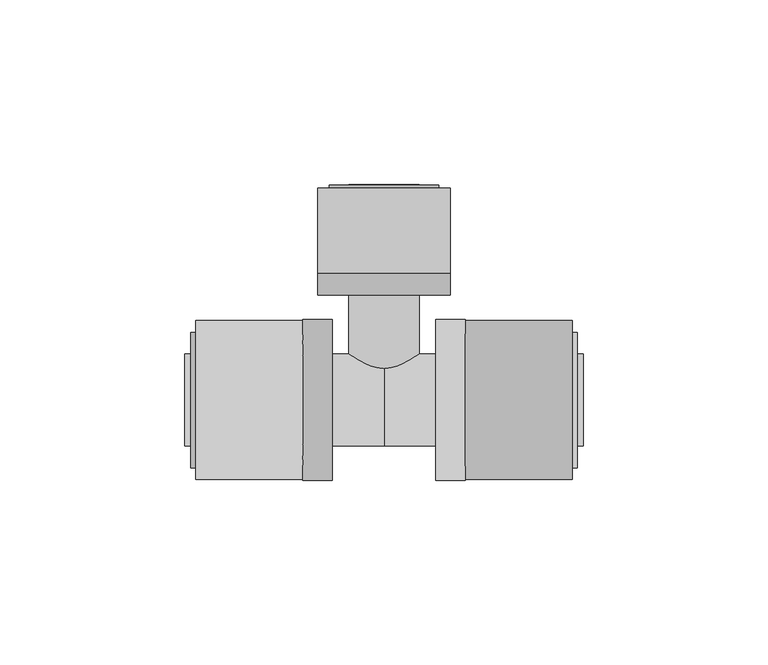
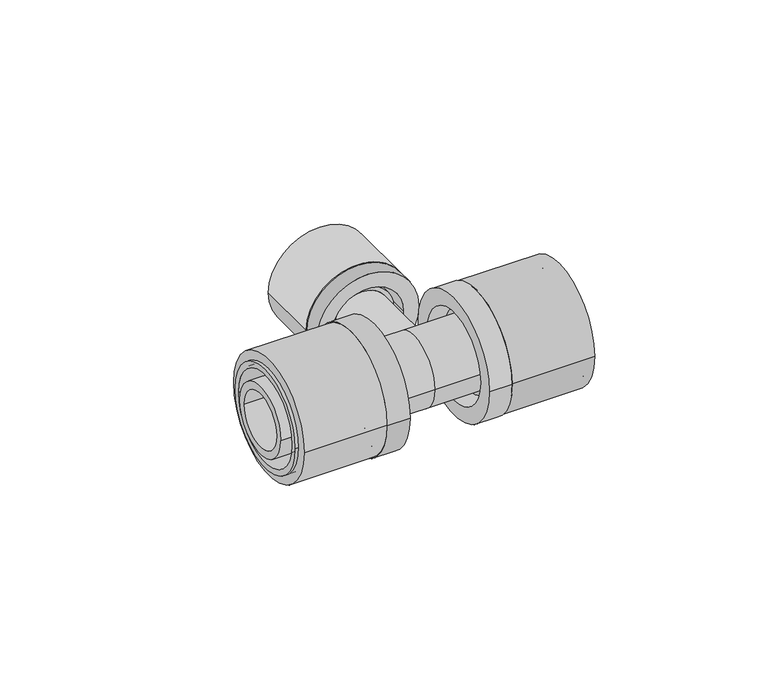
"""IFC4 building model written with IfcOpenShell, lengths in millimetres: pipe fitting geometry, FASTLOC_T-piece_LX : FSL T-Piece LX CZ."""

from ifc_helpers import new_model, si_unit, point, frame, origin, origin_2d, place, context, project, spatial, polyline, circle_curve, trimmed, segment, composite_curve, outline, extrude, source, transform, mapped, element, save
from ifc_brep_helpers import plane_surface, cylinder_surface, revolved_surface, advanced_brep


def pipe_fitting_b40a3e3c(model_context):
    return source(origin(), model_context, "Body", "SolidModel", [
        extrude(outline(composite_curve([segment(trimmed(circle_curve(origin_2d(), 21.5), [point((-21.5, 0.0))], [point((21.5, 0.0))], False, "CARTESIAN"), True, "CONTINUOUS"), segment(trimmed(circle_curve(origin_2d(), 21.5), [point((21.5, 0.0))], [point((-21.5, 0.0))], False, "CARTESIAN"), True, "CONTINUOUS")], self_intersect=False), holes=[composite_curve([segment(trimmed(circle_curve(origin_2d(), 16.85), [point((-16.85, 0.0))], [point((16.85, 0.0))], True, "CARTESIAN"), True, "CONTINUOUS"), segment(trimmed(circle_curve(origin_2d(), 16.85), [point((16.85, 0.0))], [point((-16.85, 0.0))], True, "CARTESIAN"), True, "CONTINUOUS")], self_intersect=False)]), frame((22.0, 0.0, 0.0), z_axis=(1.0, 0.0, 0.0), x_axis=(0.0, 1.0, 0.0)), (0.0, 0.0, 1.0), 29.0),
        advanced_brep(
        [(22.0, 21.8, 0.0), (22.0, -21.8, 0.0), (14.0, -21.8, 0.0), (14.0, 21.8, 0.0), (52.3, 18.35, 0.0), (52.3, -18.35, 0.0), (22.0, -18.35, 0.0), (22.0, 18.35, 0.0), (14.0, 16.2, 0.0), (14.0, -16.2, 0.0), (52.3, -16.2, 0.0), (52.3, 16.2, 0.0)],
        [
            (0, 1, circle_curve(frame((22.0, 0.0, 0.0), z_axis=(-1.0, 0.0, 0.0), x_axis=(0.0, -1.0, 0.0)), 21.8)),
            (1, 2),
            (2, 3, circle_curve(frame((14.0, 0.0, 0.0), z_axis=(1.0, 0.0, 0.0), x_axis=(0.0, -1.0, 0.0)), 21.8)),
            (3, 0),
            (4, 5, circle_curve(frame((52.3, 0.0, 0.0), z_axis=(-1.0, 0.0, 0.0), x_axis=(0.0, -1.0, 0.0)), 18.35)),
            (5, 6),
            (6, 7, circle_curve(frame((22.0, 0.0, 0.0), z_axis=(1.0, 0.0, 0.0), x_axis=(0.0, -1.0, 0.0)), 18.35)),
            (7, 4),
            (8, 9, circle_curve(frame((14.0, 0.0, 0.0), z_axis=(-1.0, 0.0, 0.0), x_axis=(0.0, -1.0, 0.0)), 16.2)),
            (9, 10),
            (10, 11, circle_curve(frame((52.3, 0.0, 0.0), z_axis=(1.0, 0.0, 0.0), x_axis=(0.0, -1.0, 0.0)), 16.2)),
            (11, 8),
            (1, 0, circle_curve(frame((22.0, 0.0, 0.0), z_axis=(-1.0, 0.0, 0.0), x_axis=(0.0, 1.0, 0.0)), 21.8)),
            (3, 2, circle_curve(frame((14.0, 0.0, 0.0), z_axis=(1.0, 0.0, 0.0), x_axis=(0.0, 1.0, 0.0)), 21.8)),
            (6, 7, circle_curve(frame((22.0, 0.0, 0.0), z_axis=(-1.0, 0.0, 0.0), x_axis=(0.0, 1.0, 0.0)), 18.35)),
            (5, 4, circle_curve(frame((52.3, 0.0, 0.0), z_axis=(-1.0, 0.0, 0.0), x_axis=(0.0, 1.0, 0.0)), 18.35)),
            (10, 11, circle_curve(frame((52.3, 0.0, 0.0), z_axis=(-1.0, 0.0, 0.0), x_axis=(0.0, 1.0, 0.0)), 16.2)),
            (9, 8, circle_curve(frame((14.0, 0.0, 0.0), z_axis=(-1.0, 0.0, 0.0), x_axis=(0.0, 1.0, 0.0)), 16.2)),
        ],
        [
            cylinder_surface(frame((14.0, 0.0, 0.0), z_axis=(1.0, 0.0, 0.0), x_axis=(0.0, -1.0, 0.0)), 21.8),
            cylinder_surface(frame((14.0, 0.0, 0.0), z_axis=(1.0, 0.0, 0.0), x_axis=(0.0, -1.0, 0.0)), 18.35),
            revolved_surface(polyline([(52.3, -16.2, 0.0), (14.0, -16.2, 0.0)]), (14.0, 0.0, 0.0), (1.0, 0.0, 0.0)),
            cylinder_surface(frame((14.0, 0.0, 0.0), z_axis=(1.0, 0.0, 0.0), x_axis=(0.0, 1.0, 0.0)), 21.8),
            plane_surface(frame((22.0, 0.0, 0.0), z_axis=(1.0, 0.0, 0.0), x_axis=(0.0, 1.0, 0.0))),
            cylinder_surface(frame((14.0, 0.0, 0.0), z_axis=(1.0, 0.0, 0.0), x_axis=(0.0, 1.0, 0.0)), 18.35),
            plane_surface(frame((52.3, 0.0, 0.0), z_axis=(1.0, 0.0, 0.0), x_axis=(0.0, 1.0, 0.0))),
            revolved_surface(polyline([(52.3, 16.2, 0.0), (14.0, 16.2, 0.0)]), (14.0, 0.0, 0.0), (1.0, 0.0, 0.0)),
            plane_surface(frame((14.0, 0.0, 0.0), z_axis=(-1.0, 0.0, 0.0), x_axis=(0.0, 1.0, 0.0))),
        ],
        [
            (0, [[1, 2, 3, 4]]),
            (1, [[5, 6, 7, 8]]),
            (2, [[9, 10, 11, 12]]),
            (3, [[13, -4, 14, -2]]),
            (4, [[-13, -1], [15, -7]]),
            (5, [[16, -8, -15, -6]]),
            (6, [[-16, -5], [17, -11]]),
            (7, [[18, -12, -17, -10]]),
            (8, [[-14, -3], [-18, -9]]),
        ],
    ),
        extrude(outline(composite_curve([segment(trimmed(circle_curve(origin_2d(), 21.5), [point((21.5, 0.0))], [point((-21.5, 0.0))], False, "CARTESIAN"), True, "CONTINUOUS"), segment(trimmed(circle_curve(origin_2d(), 21.5), [point((-21.5, 0.0))], [point((21.5, 0.0))], False, "CARTESIAN"), True, "CONTINUOUS")], self_intersect=False), holes=[composite_curve([segment(trimmed(circle_curve(origin_2d(), 16.85), [point((16.85, 0.0))], [point((-16.85, 0.0))], True, "CARTESIAN"), True, "CONTINUOUS"), segment(trimmed(circle_curve(origin_2d(), 16.85), [point((-16.85, 0.0))], [point((16.85, 0.0))], True, "CARTESIAN"), True, "CONTINUOUS")], self_intersect=False)]), frame((-51.0, 0.0, 0.0), z_axis=(1.0, 0.0, 0.0), x_axis=(0.0, 1.0, 0.0)), (0.0, 0.0, 1.0), 29.0),
        advanced_brep(
        [(-22.0, -21.8, 0.0), (-22.0, 21.8, 0.0), (-14.0, 21.8, 0.0), (-14.0, -21.8, 0.0), (-52.3, -18.35, 0.0), (-52.3, 18.35, 0.0), (-22.0, 18.35, 0.0), (-22.0, -18.35, 0.0), (-14.0, -16.2, 0.0), (-14.0, 16.2, 0.0), (-52.3, 16.2, 0.0), (-52.3, -16.2, 0.0)],
        [
            (0, 1, circle_curve(frame((-22.0, 0.0, 0.0), z_axis=(1.0, 0.0, 0.0), x_axis=(0.0, 1.0, 0.0)), 21.8)),
            (1, 2),
            (2, 3, circle_curve(frame((-14.0, 0.0, 0.0), z_axis=(-1.0, 0.0, 0.0), x_axis=(0.0, 1.0, 0.0)), 21.8)),
            (3, 0),
            (4, 5, circle_curve(frame((-52.3, 0.0, 0.0), z_axis=(1.0, 0.0, 0.0), x_axis=(0.0, 1.0, 0.0)), 18.35)),
            (5, 6),
            (6, 7, circle_curve(frame((-22.0, 0.0, 0.0), z_axis=(-1.0, 0.0, 0.0), x_axis=(0.0, 1.0, 0.0)), 18.35)),
            (7, 4),
            (8, 9, circle_curve(frame((-14.0, 0.0, 0.0), z_axis=(1.0, 0.0, 0.0), x_axis=(0.0, 1.0, 0.0)), 16.2)),
            (9, 10),
            (10, 11, circle_curve(frame((-52.3, 0.0, 0.0), z_axis=(-1.0, 0.0, 0.0), x_axis=(0.0, 1.0, 0.0)), 16.2)),
            (11, 8),
            (1, 0, circle_curve(frame((-22.0, 0.0, 0.0), z_axis=(1.0, 0.0, 0.0), x_axis=(0.0, -1.0, 0.0)), 21.8)),
            (3, 2, circle_curve(frame((-14.0, 0.0, 0.0), z_axis=(-1.0, 0.0, 0.0), x_axis=(0.0, -1.0, 0.0)), 21.8)),
            (6, 7, circle_curve(frame((-22.0, 0.0, 0.0), z_axis=(1.0, 0.0, 0.0), x_axis=(0.0, -1.0, 0.0)), 18.35)),
            (5, 4, circle_curve(frame((-52.3, 0.0, 0.0), z_axis=(1.0, 0.0, 0.0), x_axis=(0.0, -1.0, 0.0)), 18.35)),
            (10, 11, circle_curve(frame((-52.3, 0.0, 0.0), z_axis=(1.0, 0.0, 0.0), x_axis=(0.0, -1.0, 0.0)), 16.2)),
            (9, 8, circle_curve(frame((-14.0, 0.0, 0.0), z_axis=(1.0, 0.0, 0.0), x_axis=(0.0, -1.0, 0.0)), 16.2)),
        ],
        [
            cylinder_surface(frame((-14.0, 0.0, 0.0), z_axis=(-1.0, 0.0, 0.0), x_axis=(0.0, 1.0, 0.0)), 21.8),
            cylinder_surface(frame((-14.0, 0.0, 0.0), z_axis=(-1.0, 0.0, 0.0), x_axis=(0.0, 1.0, 0.0)), 18.35),
            revolved_surface(polyline([(-52.3, 16.2, 0.0), (-14.0, 16.2, 0.0)]), (-14.0, 0.0, 0.0), (-1.0, 0.0, 0.0)),
            cylinder_surface(frame((-14.0, 0.0, 0.0), z_axis=(-1.0, 0.0, 0.0), x_axis=(0.0, -1.0, 0.0)), 21.8),
            plane_surface(frame((-22.0, 0.0, 0.0), z_axis=(-1.0, 0.0, 0.0), x_axis=(0.0, -1.0, 0.0))),
            cylinder_surface(frame((-14.0, 0.0, 0.0), z_axis=(-1.0, 0.0, 0.0), x_axis=(0.0, -1.0, 0.0)), 18.35),
            plane_surface(frame((-52.3, 0.0, 0.0), z_axis=(-1.0, 0.0, 0.0), x_axis=(0.0, -1.0, 0.0))),
            revolved_surface(polyline([(-52.3, -16.2, 0.0), (-14.0, -16.2, 0.0)]), (-14.0, 0.0, 0.0), (-1.0, 0.0, 0.0)),
            plane_surface(frame((-14.0, 0.0, 0.0), z_axis=(1.0, 0.0, 0.0), x_axis=(0.0, -1.0, 0.0))),
        ],
        [
            (0, [[1, 2, 3, 4]]),
            (1, [[5, 6, 7, 8]]),
            (2, [[9, 10, 11, 12]]),
            (3, [[13, -4, 14, -2]]),
            (4, [[-13, -1], [15, -7]]),
            (5, [[16, -8, -15, -6]]),
            (6, [[-16, -5], [17, -11]]),
            (7, [[18, -12, -17, -10]]),
            (8, [[-14, -3], [-18, -9]]),
        ],
    ),
        extrude(outline(composite_curve([segment(trimmed(circle_curve(origin_2d(), 18.0), [point((0.0, 18.0))], [point((0.0, -18.0))], False, "CARTESIAN"), True, "CONTINUOUS"), segment(trimmed(circle_curve(origin_2d(), 18.0), [point((0.0, -18.0))], [point((0.0, 18.0))], False, "CARTESIAN"), True, "CONTINUOUS")], self_intersect=False), holes=[composite_curve([segment(trimmed(circle_curve(origin_2d(), 13.5), [point((0.0, 13.5))], [point((0.0, -13.5))], True, "CARTESIAN"), True, "CONTINUOUS"), segment(trimmed(circle_curve(origin_2d(), 13.5), [point((0.0, -13.5))], [point((0.0, 13.5))], True, "CARTESIAN"), True, "CONTINUOUS")], self_intersect=False)]), frame((0.0, 34.4, 0.0), z_axis=(0.0, 1.0, 0.0), x_axis=(0.0, 0.0, 1.0)), (0.0, 0.0, 1.0), 23.0),
        advanced_brep(
        [(-18.0, 34.4, 0.0), (18.0, 34.4, 0.0), (18.0, 28.4, 0.0), (-18.0, 28.4, 0.0), (-14.85, 58.2, 0.0), (14.85, 58.2, 0.0), (14.85, 34.4, 0.0), (-14.85, 34.4, 0.0), (-12.65, 28.4, 0.0), (12.65, 28.4, 0.0), (12.65, 58.2, 0.0), (-12.65, 58.2, 0.0)],
        [
            (0, 1, circle_curve(frame((0.0, 34.4, 0.0), z_axis=(0.0, -1.0, 0.0), x_axis=(1.0, 0.0, 0.0)), 18.0)),
            (1, 2),
            (2, 3, circle_curve(frame((0.0, 28.4, 0.0), z_axis=(0.0, 1.0, 0.0), x_axis=(1.0, 0.0, 0.0)), 18.0)),
            (3, 0),
            (4, 5, circle_curve(frame((0.0, 58.2, 0.0), z_axis=(0.0, -1.0, 0.0), x_axis=(1.0, 0.0, 0.0)), 14.85)),
            (5, 6),
            (6, 7, circle_curve(frame((0.0, 34.4, 0.0), z_axis=(0.0, 1.0, 0.0), x_axis=(1.0, 0.0, 0.0)), 14.85)),
            (7, 4),
            (8, 9, circle_curve(frame((0.0, 28.4, 0.0), z_axis=(0.0, -1.0, 0.0), x_axis=(1.0, 0.0, 0.0)), 12.65)),
            (9, 10),
            (10, 11, circle_curve(frame((0.0, 58.2, 0.0), z_axis=(0.0, 1.0, 0.0), x_axis=(1.0, 0.0, 0.0)), 12.65)),
            (11, 8),
            (1, 0, circle_curve(frame((0.0, 34.4, 0.0), z_axis=(0.0, -1.0, 0.0), x_axis=(-1.0, 0.0, 0.0)), 18.0)),
            (3, 2, circle_curve(frame((0.0, 28.4, 0.0), z_axis=(0.0, 1.0, 0.0), x_axis=(-1.0, 0.0, 0.0)), 18.0)),
            (6, 7, circle_curve(frame((0.0, 34.4, 0.0), z_axis=(0.0, -1.0, 0.0), x_axis=(-1.0, 0.0, 0.0)), 14.85)),
            (5, 4, circle_curve(frame((0.0, 58.2, 0.0), z_axis=(0.0, -1.0, 0.0), x_axis=(-1.0, 0.0, 0.0)), 14.85)),
            (10, 11, circle_curve(frame((0.0, 58.2, 0.0), z_axis=(0.0, -1.0, 0.0), x_axis=(-1.0, 0.0, 0.0)), 12.65)),
            (9, 8, circle_curve(frame((0.0, 28.4, 0.0), z_axis=(0.0, -1.0, 0.0), x_axis=(-1.0, 0.0, 0.0)), 12.65)),
        ],
        [
            cylinder_surface(frame((0.0, 28.4, 0.0), z_axis=(0.0, 1.0, 0.0), x_axis=(1.0, 0.0, 0.0)), 18.0),
            cylinder_surface(frame((0.0, 28.4, 0.0), z_axis=(0.0, 1.0, 0.0), x_axis=(1.0, 0.0, 0.0)), 14.85),
            revolved_surface(polyline([(12.65, 58.2, 0.0), (12.65, 28.4, 0.0)]), (0.0, 28.4, 0.0), (0.0, 1.0, 0.0)),
            cylinder_surface(frame((0.0, 28.4, 0.0), z_axis=(0.0, 1.0, 0.0), x_axis=(-1.0, 0.0, 0.0)), 18.0),
            plane_surface(frame((0.0, 34.4, 0.0), z_axis=(0.0, 1.0, 0.0), x_axis=(-1.0, 0.0, 0.0))),
            cylinder_surface(frame((0.0, 28.4, 0.0), z_axis=(0.0, 1.0, 0.0), x_axis=(-1.0, 0.0, 0.0)), 14.85),
            plane_surface(frame((0.0, 58.2, 0.0), z_axis=(0.0, 1.0, 0.0), x_axis=(-1.0, 0.0, 0.0))),
            revolved_surface(polyline([(-12.65, 58.2, 0.0), (-12.65, 28.4, 0.0)]), (0.0, 28.4, 0.0), (0.0, 1.0, 0.0)),
            plane_surface(frame((0.0, 28.4, 0.0), z_axis=(0.0, -1.0, 0.0), x_axis=(-1.0, 0.0, 0.0))),
        ],
        [
            (0, [[1, 2, 3, 4]]),
            (1, [[5, 6, 7, 8]]),
            (2, [[9, 10, 11, 12]]),
            (3, [[13, -4, 14, -2]]),
            (4, [[-13, -1], [15, -7]]),
            (5, [[16, -8, -15, -6]]),
            (6, [[-16, -5], [17, -11]]),
            (7, [[18, -12, -17, -10]]),
            (8, [[-14, -3], [-18, -9]]),
        ],
    ),
        advanced_brep(
        [(0.0, 12.5, 0.0), (0.0, -12.5, 0.0), (-19.0, -12.5, 0.0), (-19.0, 12.5, 0.0), (19.0, 12.5, 0.0), (19.0, -12.5, 0.0), (22.0, 14.1, 0.0), (22.0, -14.1, 0.0), (19.0, -14.1, 0.0), (19.0, 14.1, 0.0), (54.0, 12.5, 0.0), (54.0, -12.5, 0.0), (22.0, -12.5, 0.0), (22.0, 12.5, 0.0), (-22.0, 12.5, 0.0), (-22.0, -12.5, 0.0), (-54.0, -12.5, 0.0), (-54.0, 12.5, 0.0), (-19.0, 14.1, 0.0), (-19.0, -14.1, 0.0), (-22.0, -14.1, 0.0), (-22.0, 14.1, 0.0), (54.0, -9.85, 0.0), (54.0, 9.85, 0.0), (-54.0, 9.85, 0.0), (-54.0, -9.85, 0.0), (0.0, 9.85, 0.0), (0.0, -9.85, 0.0)],
        [
            (0, 1, circle_curve(frame((0.0, 0.0, 0.0), z_axis=(-1.0, 0.0, 0.0), x_axis=(0.0, -1.0, 0.0)), 12.5)),
            (1, 2),
            (2, 3, circle_curve(frame((-19.0, 0.0, 0.0), z_axis=(1.0, 0.0, 0.0), x_axis=(0.0, -1.0, 0.0)), 12.5)),
            (3, 0),
            (4, 5, circle_curve(frame((19.0, 0.0, 0.0), z_axis=(-1.0, 0.0, 0.0), x_axis=(0.0, -1.0, 0.0)), 12.5)),
            (5, 1),
            (0, 4),
            (6, 7, circle_curve(frame((22.0, 0.0, 0.0), z_axis=(-1.0, 0.0, 0.0), x_axis=(0.0, -1.0, 0.0)), 14.1)),
            (7, 8),
            (8, 9, circle_curve(frame((19.0, 0.0, 0.0), z_axis=(1.0, 0.0, 0.0), x_axis=(0.0, -1.0, 0.0)), 14.1)),
            (9, 6),
            (10, 11, circle_curve(frame((54.0, 0.0, 0.0), z_axis=(-1.0, 0.0, 0.0), x_axis=(0.0, -1.0, 0.0)), 12.5)),
            (11, 12),
            (12, 13, circle_curve(frame((22.0, 0.0, 0.0), z_axis=(1.0, 0.0, 0.0), x_axis=(0.0, -1.0, 0.0)), 12.5)),
            (13, 10),
            (14, 15, circle_curve(frame((-22.0, 0.0, 0.0), z_axis=(-1.0, 0.0, 0.0), x_axis=(0.0, -1.0, 0.0)), 12.5)),
            (15, 16),
            (16, 17, circle_curve(frame((-54.0, 0.0, 0.0), z_axis=(1.0, 0.0, 0.0), x_axis=(0.0, -1.0, 0.0)), 12.5)),
            (17, 14),
            (18, 19, circle_curve(frame((-19.0, 0.0, 0.0), z_axis=(-1.0, 0.0, 0.0), x_axis=(0.0, -1.0, 0.0)), 14.1)),
            (19, 20),
            (20, 21, circle_curve(frame((-22.0, 0.0, 0.0), z_axis=(1.0, 0.0, 0.0), x_axis=(0.0, -1.0, 0.0)), 14.1)),
            (21, 18),
            (18, 19, circle_curve(frame((-19.0, 0.0, 0.0), z_axis=(1.0, 0.0, 0.0), x_axis=(0.0, 1.0, 0.0)), 14.1)),
            (2, 3, circle_curve(frame((-19.0, 0.0, 0.0), z_axis=(-1.0, 0.0, 0.0), x_axis=(0.0, 1.0, 0.0)), 12.5)),
            (1, 0, circle_curve(frame((0.0, 0.0, 0.0), z_axis=(-1.0, 0.0, 0.0), x_axis=(0.0, 1.0, 0.0)), 12.5)),
            (5, 4, circle_curve(frame((19.0, 0.0, 0.0), z_axis=(-1.0, 0.0, 0.0), x_axis=(0.0, 1.0, 0.0)), 12.5)),
            (8, 9, circle_curve(frame((19.0, 0.0, 0.0), z_axis=(-1.0, 0.0, 0.0), x_axis=(0.0, 1.0, 0.0)), 14.1)),
            (7, 6, circle_curve(frame((22.0, 0.0, 0.0), z_axis=(-1.0, 0.0, 0.0), x_axis=(0.0, 1.0, 0.0)), 14.1)),
            (12, 13, circle_curve(frame((22.0, 0.0, 0.0), z_axis=(-1.0, 0.0, 0.0), x_axis=(0.0, 1.0, 0.0)), 12.5)),
            (11, 10, circle_curve(frame((54.0, 0.0, 0.0), z_axis=(-1.0, 0.0, 0.0), x_axis=(0.0, 1.0, 0.0)), 12.5)),
            (22, 23, circle_curve(frame((54.0, 0.0, 0.0), z_axis=(-1.0, 0.0, 0.0), x_axis=(0.0, 1.0, 0.0)), 9.85)),
            (23, 22, circle_curve(frame((54.0, 0.0, 0.0), z_axis=(-1.0, 0.0, 0.0), x_axis=(0.0, -1.0, 0.0)), 9.85)),
            (16, 17, circle_curve(frame((-54.0, 0.0, 0.0), z_axis=(-1.0, 0.0, 0.0), x_axis=(0.0, 1.0, 0.0)), 12.5)),
            (24, 25, circle_curve(frame((-54.0, 0.0, 0.0), z_axis=(1.0, 0.0, 0.0), x_axis=(0.0, 1.0, 0.0)), 9.85)),
            (25, 24, circle_curve(frame((-54.0, 0.0, 0.0), z_axis=(1.0, 0.0, 0.0), x_axis=(0.0, -1.0, 0.0)), 9.85)),
            (15, 14, circle_curve(frame((-22.0, 0.0, 0.0), z_axis=(-1.0, 0.0, 0.0), x_axis=(0.0, 1.0, 0.0)), 12.5)),
            (20, 21, circle_curve(frame((-22.0, 0.0, 0.0), z_axis=(-1.0, 0.0, 0.0), x_axis=(0.0, 1.0, 0.0)), 14.1)),
            (26, 27, circle_curve(frame((0.0, 0.0, 0.0), z_axis=(-1.0, 0.0, 0.0), x_axis=(0.0, -1.0, 0.0)), 9.85)),
            (27, 22),
            (23, 26),
            (25, 27),
            (26, 24),
            (27, 26, circle_curve(frame((0.0, 0.0, 0.0), z_axis=(-1.0, 0.0, 0.0), x_axis=(0.0, 1.0, 0.0)), 9.85)),
        ],
        [
            cylinder_surface(frame((0.0, 0.0, 0.0), z_axis=(1.0, 0.0, 0.0), x_axis=(0.0, -1.0, 0.0)), 12.5),
            cylinder_surface(frame((0.0, 0.0, 0.0), z_axis=(1.0, 0.0, 0.0), x_axis=(0.0, -1.0, 0.0)), 14.1),
            plane_surface(frame((-19.0, 0.0, 0.0), z_axis=(1.0, 0.0, 0.0), x_axis=(0.0, 1.0, 0.0))),
            cylinder_surface(frame((0.0, 0.0, 0.0), z_axis=(1.0, 0.0, 0.0), x_axis=(0.0, 1.0, 0.0)), 12.5),
            plane_surface(frame((19.0, 0.0, 0.0), z_axis=(-1.0, 0.0, 0.0), x_axis=(0.0, 1.0, 0.0))),
            cylinder_surface(frame((0.0, 0.0, 0.0), z_axis=(1.0, 0.0, 0.0), x_axis=(0.0, 1.0, 0.0)), 14.1),
            plane_surface(frame((22.0, 0.0, 0.0), z_axis=(1.0, 0.0, 0.0), x_axis=(0.0, 1.0, 0.0))),
            plane_surface(frame((54.0, 0.0, 0.0), z_axis=(1.0, 0.0, 0.0), x_axis=(0.0, 1.0, 0.0))),
            plane_surface(frame((-54.0, 0.0, 0.0), z_axis=(-1.0, 0.0, 0.0), x_axis=(0.0, 1.0, 0.0))),
            plane_surface(frame((-22.0, 0.0, 0.0), z_axis=(-1.0, 0.0, 0.0), x_axis=(0.0, 1.0, 0.0))),
            revolved_surface(polyline([(54.0, -9.85, 0.0), (0.0, -9.85, 0.0)]), (0.0, 0.0, 0.0), (1.0, 0.0, 0.0)),
            revolved_surface(polyline([(0.0, -9.85, 0.0), (-54.0, -9.85, 0.0)]), (0.0, 0.0, 0.0), (1.0, 0.0, 0.0)),
            revolved_surface(polyline([(54.0, 9.85, 0.0), (0.0, 9.85, 0.0)]), (0.0, 0.0, 0.0), (1.0, 0.0, 0.0)),
            revolved_surface(polyline([(0.0, 9.85, 0.0), (-54.0, 9.85, 0.0)]), (0.0, 0.0, 0.0), (1.0, 0.0, 0.0)),
        ],
        [
            (0, [[1, 2, 3, 4]]),
            (0, [[5, 6, -1, 7]]),
            (1, [[8, 9, 10, 11]]),
            (0, [[12, 13, 14, 15]]),
            (0, [[16, 17, 18, 19]]),
            (1, [[20, 21, 22, 23]]),
            (2, [[24, -20], [25, -3]]),
            (3, [[26, -4, -25, -2]]),
            (3, [[27, -7, -26, -6]]),
            (4, [[28, -10], [-27, -5]]),
            (5, [[29, -11, -28, -9]]),
            (6, [[-29, -8], [30, -14]]),
            (3, [[31, -15, -30, -13]]),
            (7, [[-31, -12], [32, 33]]),
            (8, [[34, -18], [35, 36]]),
            (3, [[37, -19, -34, -17]]),
            (9, [[38, -22], [-37, -16]]),
            (5, [[-24, -23, -38, -21]]),
            (10, [[39, 40, -33, 41]]),
            (11, [[-36, 42, -39, 43]]),
            (12, [[44, -41, -32, -40]]),
            (13, [[-35, -43, -44, -42]]),
        ],
    ),
        advanced_brep(
        [(7.35, 58.4, 0.0), (-7.35, 58.4, 0.0), (-7.35, 0.0, 0.0), (7.35, 0.0, 0.0), (9.6, 0.0, 0.0), (-9.6, 0.0, 0.0), (-9.6, 31.6, 0.0), (9.6, 31.6, 0.0), (11.1, 31.6, 0.0), (-11.1, 31.6, 0.0), (-11.1, 34.4, 0.0), (11.1, 34.4, 0.0), (9.6, 34.4, 0.0), (-9.6, 34.4, 0.0), (-9.6, 58.4, 0.0), (9.6, 58.4, 0.0)],
        [
            (0, 1, circle_curve(frame((0.0, 58.4, 0.0), z_axis=(0.0, 1.0, 0.0), x_axis=(-1.0, 0.0, 0.0)), 7.35)),
            (1, 2),
            (2, 3, circle_curve(frame((0.0, 0.0, 0.0), z_axis=(0.0, -1.0, 0.0), x_axis=(-1.0, 0.0, 0.0)), 7.35)),
            (3, 0),
            (4, 5, circle_curve(frame((0.0, 0.0, 0.0), z_axis=(0.0, 1.0, 0.0), x_axis=(-1.0, 0.0, 0.0)), 9.6)),
            (5, 6),
            (6, 7, circle_curve(frame((0.0, 31.6, 0.0), z_axis=(0.0, -1.0, 0.0), x_axis=(-1.0, 0.0, 0.0)), 9.6)),
            (7, 4),
            (8, 9, circle_curve(frame((0.0, 31.6, 0.0), z_axis=(0.0, 1.0, 0.0), x_axis=(-1.0, 0.0, 0.0)), 11.1)),
            (9, 10),
            (10, 11, circle_curve(frame((0.0, 34.4, 0.0), z_axis=(0.0, -1.0, 0.0), x_axis=(-1.0, 0.0, 0.0)), 11.1)),
            (11, 8),
            (12, 13, circle_curve(frame((0.0, 34.4, 0.0), z_axis=(0.0, 1.0, 0.0), x_axis=(-1.0, 0.0, 0.0)), 9.6)),
            (13, 14),
            (14, 15, circle_curve(frame((0.0, 58.4, 0.0), z_axis=(0.0, -1.0, 0.0), x_axis=(-1.0, 0.0, 0.0)), 9.6)),
            (15, 12),
            (1, 0, circle_curve(frame((0.0, 58.4, 0.0), z_axis=(0.0, 1.0, 0.0), x_axis=(1.0, 0.0, 0.0)), 7.35)),
            (3, 2, circle_curve(frame((0.0, 0.0, 0.0), z_axis=(0.0, -1.0, 0.0), x_axis=(1.0, 0.0, 0.0)), 7.35)),
            (4, 5, circle_curve(frame((0.0, 0.0, 0.0), z_axis=(0.0, -1.0, 0.0), x_axis=(1.0, 0.0, 0.0)), 9.6)),
            (7, 6, circle_curve(frame((0.0, 31.6, 0.0), z_axis=(0.0, -1.0, 0.0), x_axis=(1.0, 0.0, 0.0)), 9.6)),
            (8, 9, circle_curve(frame((0.0, 31.6, 0.0), z_axis=(0.0, -1.0, 0.0), x_axis=(1.0, 0.0, 0.0)), 11.1)),
            (11, 10, circle_curve(frame((0.0, 34.4, 0.0), z_axis=(0.0, -1.0, 0.0), x_axis=(1.0, 0.0, 0.0)), 11.1)),
            (12, 13, circle_curve(frame((0.0, 34.4, 0.0), z_axis=(0.0, -1.0, 0.0), x_axis=(1.0, 0.0, 0.0)), 9.6)),
            (15, 14, circle_curve(frame((0.0, 58.4, 0.0), z_axis=(0.0, -1.0, 0.0), x_axis=(1.0, 0.0, 0.0)), 9.6)),
        ],
        [
            revolved_surface(polyline([(-7.35, 0.0, 0.0), (-7.35, 58.4, 0.0)]), (0.0, 0.0, 0.0), (0.0, -1.0, 0.0)),
            cylinder_surface(frame((0.0, 0.0, 0.0), z_axis=(0.0, -1.0, 0.0), x_axis=(-1.0, 0.0, 0.0)), 9.6),
            cylinder_surface(frame((0.0, 0.0, 0.0), z_axis=(0.0, -1.0, 0.0), x_axis=(-1.0, 0.0, 0.0)), 11.1),
            revolved_surface(polyline([(7.35, 0.0, 0.0), (7.35, 58.4, 0.0)]), (0.0, 0.0, 0.0), (0.0, -1.0, 0.0)),
            plane_surface(frame((0.0, 0.0, 0.0), z_axis=(0.0, -1.0, 0.0), x_axis=(1.0, 0.0, 0.0))),
            cylinder_surface(frame((0.0, 0.0, 0.0), z_axis=(0.0, -1.0, 0.0), x_axis=(1.0, 0.0, 0.0)), 9.6),
            plane_surface(frame((0.0, 31.6, 0.0), z_axis=(0.0, -1.0, 0.0), x_axis=(1.0, 0.0, 0.0))),
            cylinder_surface(frame((0.0, 0.0, 0.0), z_axis=(0.0, -1.0, 0.0), x_axis=(1.0, 0.0, 0.0)), 11.1),
            plane_surface(frame((0.0, 34.4, 0.0), z_axis=(0.0, 1.0, 0.0), x_axis=(1.0, 0.0, 0.0))),
            plane_surface(frame((0.0, 58.4, 0.0), z_axis=(0.0, 1.0, 0.0), x_axis=(1.0, 0.0, 0.0))),
        ],
        [
            (0, [[1, 2, 3, 4]]),
            (1, [[5, 6, 7, 8]]),
            (2, [[9, 10, 11, 12]]),
            (1, [[13, 14, 15, 16]]),
            (3, [[17, -4, 18, -2]]),
            (4, [[19, -5], [-18, -3]]),
            (5, [[-19, -8, 20, -6]]),
            (6, [[21, -9], [-20, -7]]),
            (7, [[-21, -12, 22, -10]]),
            (8, [[-22, -11], [23, -13]]),
            (5, [[-23, -16, 24, -14]]),
            (9, [[-24, -15], [-17, -1]]),
        ],
    ),
    ])


if __name__ == "__main__":
    model = new_model("IFC4")
    model_context = context("Model", 3, world=origin())
    ifc_project = project(units=[si_unit("LENGTHUNIT", "METRE", prefix="MILLI")], contexts=[model_context])
    site = spatial("IfcSite", under=ifc_project)
    building = spatial("IfcBuilding", under=site)
    placement = place(None, origin())
    pipe_fitting_shape = pipe_fitting_b40a3e3c(model_context)
    element("IfcPipeFitting", 1, ObjectType="FASTLOC_T-piece_LX : FSL T-Piece LX CZ", at=placement, inside=building, context=model_context, shape_type="MappedRepresentation", body=[
        mapped(pipe_fitting_shape, transform((0.0, 0.0, 0.0), x_axis=(1.0, 0.0, 0.0), y_axis=(0.0, 1.0, 0.0), z_axis=(0.0, 0.0, 1.0))),
    ])
    save(model, "model.ifc")
